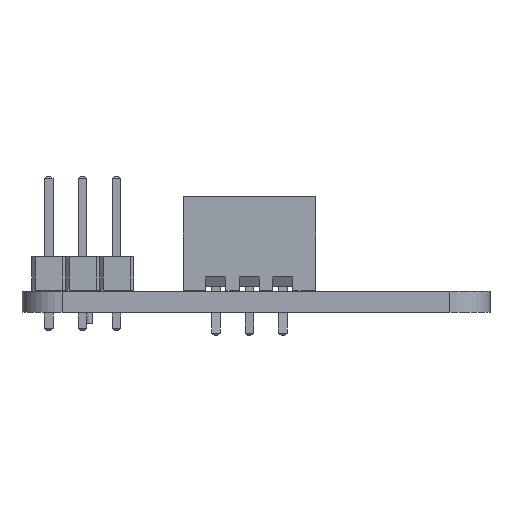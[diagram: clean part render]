
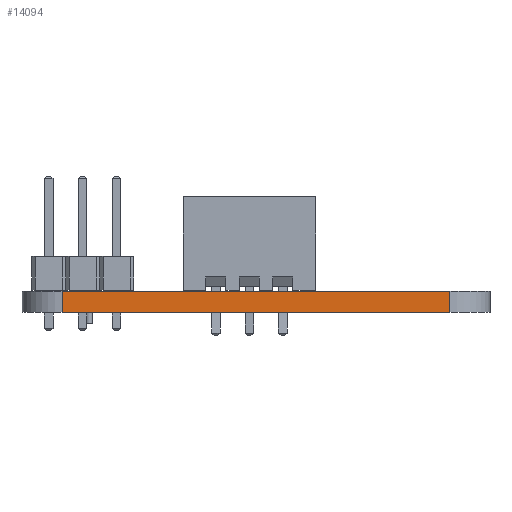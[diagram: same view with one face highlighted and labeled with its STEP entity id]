
A CAD part, left-side view. The second image highlights one B-rep face of the part: STEP entity #14094.
In plain terms, the highlighted planar face has unit normal (-1, 0, 0).
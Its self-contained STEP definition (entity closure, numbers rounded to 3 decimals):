
#12711 = CYLINDRICAL_SURFACE('',#12712,3.);
#12712 = AXIS2_PLACEMENT_3D('',#12713,#12714,#12715);
#12713 = CARTESIAN_POINT('',(3.,32.,0.));
#12714 = DIRECTION('',(-0.,-0.,-1.));
#12715 = DIRECTION('',(1.,0.,-0.));
#12739 = PLANE('',#12740);
#12740 = AXIS2_PLACEMENT_3D('',#12741,#12742,#12743);
#12741 = CARTESIAN_POINT('',(30.,17.5,1.6));
#12742 = DIRECTION('',(-0.,-0.,-1.));
#12743 = DIRECTION('',(-1.,0.,0.));
#12793 = PLANE('',#12794);
#12794 = AXIS2_PLACEMENT_3D('',#12795,#12796,#12797);
#12795 = CARTESIAN_POINT('',(30.,17.5,0.));
#12796 = DIRECTION('',(-0.,-0.,-1.));
#12797 = DIRECTION('',(-1.,0.,0.));
#12810 = VERTEX_POINT('',#12811);
#12811 = CARTESIAN_POINT('',(0.,32.,1.6));
#12837 = EDGE_CURVE('',#12838,#12810,#12840,.T.);
#12838 = VERTEX_POINT('',#12839);
#12839 = CARTESIAN_POINT('',(0.,32.,0.));
#12840 = SURFACE_CURVE('',#12841,(#12845,#12852),.PCURVE_S1.);
#12841 = LINE('',#12842,#12843);
#12842 = CARTESIAN_POINT('',(0.,32.,0.));
#12843 = VECTOR('',#12844,1.);
#12844 = DIRECTION('',(0.,0.,1.));
#12845 = PCURVE('',#12711,#12846);
#12846 = DEFINITIONAL_REPRESENTATION('',(#12847),#12851);
#12847 = LINE('',#12848,#12849);
#12848 = CARTESIAN_POINT('',(-3.142,0.));
#12849 = VECTOR('',#12850,1.);
#12850 = DIRECTION('',(-0.,-1.));
#12851 = ( GEOMETRIC_REPRESENTATION_CONTEXT(2) 
PARAMETRIC_REPRESENTATION_CONTEXT() REPRESENTATION_CONTEXT('2D SPACE',''
  ) );
#12852 = PCURVE('',#12853,#12858);
#12853 = PLANE('',#12854);
#12854 = AXIS2_PLACEMENT_3D('',#12855,#12856,#12857);
#12855 = CARTESIAN_POINT('',(0.,3.,0.));
#12856 = DIRECTION('',(-1.,0.,0.));
#12857 = DIRECTION('',(0.,1.,0.));
#12858 = DEFINITIONAL_REPRESENTATION('',(#12859),#12863);
#12859 = LINE('',#12860,#12861);
#12860 = CARTESIAN_POINT('',(29.,0.));
#12861 = VECTOR('',#12862,1.);
#12862 = DIRECTION('',(0.,-1.));
#12863 = ( GEOMETRIC_REPRESENTATION_CONTEXT(2) 
PARAMETRIC_REPRESENTATION_CONTEXT() REPRESENTATION_CONTEXT('2D SPACE',''
  ) );
#13067 = VERTEX_POINT('',#13068);
#13068 = CARTESIAN_POINT('',(0.,3.,0.));
#13087 = CYLINDRICAL_SURFACE('',#13088,3.);
#13088 = AXIS2_PLACEMENT_3D('',#13089,#13090,#13091);
#13089 = CARTESIAN_POINT('',(3.,3.,0.));
#13090 = DIRECTION('',(-0.,-0.,-1.));
#13091 = DIRECTION('',(1.,0.,-0.));
#13099 = EDGE_CURVE('',#13067,#12838,#13100,.T.);
#13100 = SURFACE_CURVE('',#13101,(#13105,#13112),.PCURVE_S1.);
#13101 = LINE('',#13102,#13103);
#13102 = CARTESIAN_POINT('',(0.,3.,0.));
#13103 = VECTOR('',#13104,1.);
#13104 = DIRECTION('',(0.,1.,0.));
#13105 = PCURVE('',#12793,#13106);
#13106 = DEFINITIONAL_REPRESENTATION('',(#13107),#13111);
#13107 = LINE('',#13108,#13109);
#13108 = CARTESIAN_POINT('',(30.,-14.5));
#13109 = VECTOR('',#13110,1.);
#13110 = DIRECTION('',(0.,1.));
#13111 = ( GEOMETRIC_REPRESENTATION_CONTEXT(2) 
PARAMETRIC_REPRESENTATION_CONTEXT() REPRESENTATION_CONTEXT('2D SPACE',''
  ) );
#13112 = PCURVE('',#12853,#13113);
#13113 = DEFINITIONAL_REPRESENTATION('',(#13114),#13118);
#13114 = LINE('',#13115,#13116);
#13115 = CARTESIAN_POINT('',(0.,0.));
#13116 = VECTOR('',#13117,1.);
#13117 = DIRECTION('',(1.,0.));
#13118 = ( GEOMETRIC_REPRESENTATION_CONTEXT(2) 
PARAMETRIC_REPRESENTATION_CONTEXT() REPRESENTATION_CONTEXT('2D SPACE',''
  ) );
#13656 = VERTEX_POINT('',#13657);
#13657 = CARTESIAN_POINT('',(0.,3.,1.6));
#13683 = EDGE_CURVE('',#13656,#12810,#13684,.T.);
#13684 = SURFACE_CURVE('',#13685,(#13689,#13696),.PCURVE_S1.);
#13685 = LINE('',#13686,#13687);
#13686 = CARTESIAN_POINT('',(0.,3.,1.6));
#13687 = VECTOR('',#13688,1.);
#13688 = DIRECTION('',(0.,1.,0.));
#13689 = PCURVE('',#12739,#13690);
#13690 = DEFINITIONAL_REPRESENTATION('',(#13691),#13695);
#13691 = LINE('',#13692,#13693);
#13692 = CARTESIAN_POINT('',(30.,-14.5));
#13693 = VECTOR('',#13694,1.);
#13694 = DIRECTION('',(0.,1.));
#13695 = ( GEOMETRIC_REPRESENTATION_CONTEXT(2) 
PARAMETRIC_REPRESENTATION_CONTEXT() REPRESENTATION_CONTEXT('2D SPACE',''
  ) );
#13696 = PCURVE('',#12853,#13697);
#13697 = DEFINITIONAL_REPRESENTATION('',(#13698),#13702);
#13698 = LINE('',#13699,#13700);
#13699 = CARTESIAN_POINT('',(0.,-1.6));
#13700 = VECTOR('',#13701,1.);
#13701 = DIRECTION('',(1.,0.));
#13702 = ( GEOMETRIC_REPRESENTATION_CONTEXT(2) 
PARAMETRIC_REPRESENTATION_CONTEXT() REPRESENTATION_CONTEXT('2D SPACE',''
  ) );
#14094 = ADVANCED_FACE('',(#14095),#12853,.T.);
#14095 = FACE_BOUND('',#14096,.T.);
#14096 = EDGE_LOOP('',(#14097,#14118,#14119,#14120));
#14097 = ORIENTED_EDGE('',*,*,#14098,.T.);
#14098 = EDGE_CURVE('',#13067,#13656,#14099,.T.);
#14099 = SURFACE_CURVE('',#14100,(#14104,#14111),.PCURVE_S1.);
#14100 = LINE('',#14101,#14102);
#14101 = CARTESIAN_POINT('',(0.,3.,0.));
#14102 = VECTOR('',#14103,1.);
#14103 = DIRECTION('',(0.,0.,1.));
#14104 = PCURVE('',#12853,#14105);
#14105 = DEFINITIONAL_REPRESENTATION('',(#14106),#14110);
#14106 = LINE('',#14107,#14108);
#14107 = CARTESIAN_POINT('',(0.,0.));
#14108 = VECTOR('',#14109,1.);
#14109 = DIRECTION('',(0.,-1.));
#14110 = ( GEOMETRIC_REPRESENTATION_CONTEXT(2) 
PARAMETRIC_REPRESENTATION_CONTEXT() REPRESENTATION_CONTEXT('2D SPACE',''
  ) );
#14111 = PCURVE('',#13087,#14112);
#14112 = DEFINITIONAL_REPRESENTATION('',(#14113),#14117);
#14113 = LINE('',#14114,#14115);
#14114 = CARTESIAN_POINT('',(-3.142,0.));
#14115 = VECTOR('',#14116,1.);
#14116 = DIRECTION('',(-0.,-1.));
#14117 = ( GEOMETRIC_REPRESENTATION_CONTEXT(2) 
PARAMETRIC_REPRESENTATION_CONTEXT() REPRESENTATION_CONTEXT('2D SPACE',''
  ) );
#14118 = ORIENTED_EDGE('',*,*,#13683,.T.);
#14119 = ORIENTED_EDGE('',*,*,#12837,.F.);
#14120 = ORIENTED_EDGE('',*,*,#13099,.F.);
